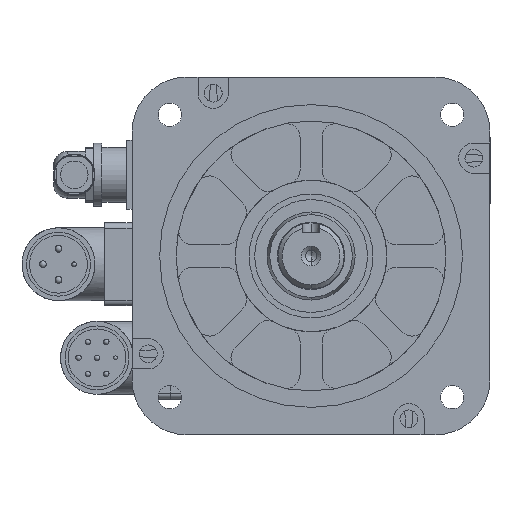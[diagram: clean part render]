
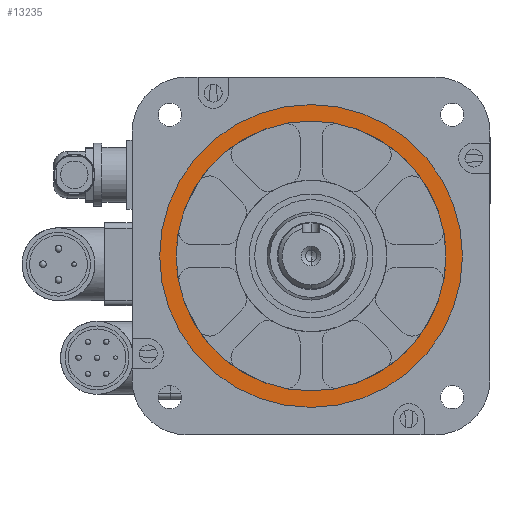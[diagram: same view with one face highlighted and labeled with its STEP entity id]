
A CAD part, left-side view. The second image highlights one B-rep face of the part: STEP entity #13235.
In plain terms, the highlighted planar face has unit normal (-1, 0, 0).
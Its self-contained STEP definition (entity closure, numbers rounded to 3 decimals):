
#143 = CARTESIAN_POINT ( 'NONE',  ( -6., 0., 0. ) ) ;
#449 = ORIENTED_EDGE ( 'NONE', *, *, #13008, .T. ) ;
#2937 = AXIS2_PLACEMENT_3D ( 'NONE', #32665, #12424, #36083 ) ;
#3541 = DIRECTION ( 'NONE',  ( 0., 0., 1. ) ) ;
#4160 = ORIENTED_EDGE ( 'NONE', *, *, #36298, .F. ) ;
#4733 = CARTESIAN_POINT ( 'NONE',  ( -6., 0., 0. ) ) ;
#4936 = CARTESIAN_POINT ( 'NONE',  ( -6., 0., 49. ) ) ;
#5955 = VERTEX_POINT ( 'NONE', #4936 ) ;
#7286 = AXIS2_PLACEMENT_3D ( 'NONE', #9006, #19218, #42876 ) ;
#7485 = EDGE_CURVE ( 'NONE', #28622, #12285, #10185, .T. ) ;
#8139 = DIRECTION ( 'NONE',  ( 0., 0., 1. ) ) ;
#9006 = CARTESIAN_POINT ( 'NONE',  ( -6., 0., 0. ) ) ;
#10185 = CIRCLE ( 'NONE', #37185, 55. ) ;
#10372 = EDGE_LOOP ( 'NONE', ( #31946, #449 ) ) ;
#12285 = VERTEX_POINT ( 'NONE', #23655 ) ;
#12424 = DIRECTION ( 'NONE',  ( -1., 0., 0. ) ) ;
#13008 = EDGE_CURVE ( 'NONE', #12285, #28622, #14003, .T. ) ;
#13235 = ADVANCED_FACE ( 'NONE', ( #23509, #15546 ), #39340, .T. ) ;
#14003 = CIRCLE ( 'NONE', #21719, 55. ) ;
#15546 = FACE_OUTER_BOUND ( 'NONE', #10372, .T. ) ;
#15780 = ORIENTED_EDGE ( 'NONE', *, *, #27117, .F. ) ;
#16119 = CARTESIAN_POINT ( 'NONE',  ( -6., 0., 0. ) ) ;
#19041 = EDGE_LOOP ( 'NONE', ( #15780, #4160 ) ) ;
#19218 = DIRECTION ( 'NONE',  ( -1., 0., 0. ) ) ;
#19401 = CIRCLE ( 'NONE', #22431, 49. ) ;
#19524 = DIRECTION ( 'NONE',  ( 0., 0., 1. ) ) ;
#21719 = AXIS2_PLACEMENT_3D ( 'NONE', #4733, #28385, #8139 ) ;
#22431 = AXIS2_PLACEMENT_3D ( 'NONE', #16119, #39826, #19524 ) ;
#23509 = FACE_BOUND ( 'NONE', #19041, .T. ) ;
#23655 = CARTESIAN_POINT ( 'NONE',  ( -6., 0., 55. ) ) ;
#23792 = DIRECTION ( 'NONE',  ( -1., 0., 0. ) ) ;
#27117 = EDGE_CURVE ( 'NONE', #5955, #29153, #19401, .T. ) ;
#28385 = DIRECTION ( 'NONE',  ( -1., 0., 0. ) ) ;
#28622 = VERTEX_POINT ( 'NONE', #43176 ) ;
#29153 = VERTEX_POINT ( 'NONE', #32323 ) ;
#31946 = ORIENTED_EDGE ( 'NONE', *, *, #7485, .T. ) ;
#32323 = CARTESIAN_POINT ( 'NONE',  ( -6., 0., -49. ) ) ;
#32665 = CARTESIAN_POINT ( 'NONE',  ( -6., 0., 0. ) ) ;
#36083 = DIRECTION ( 'NONE',  ( 0., 0., 1. ) ) ;
#36298 = EDGE_CURVE ( 'NONE', #29153, #5955, #36751, .T. ) ;
#36751 = CIRCLE ( 'NONE', #2937, 49. ) ;
#37185 = AXIS2_PLACEMENT_3D ( 'NONE', #143, #23792, #3541 ) ;
#39340 = PLANE ( 'NONE',  #7286 ) ;
#39826 = DIRECTION ( 'NONE',  ( -1., 0., 0. ) ) ;
#42876 = DIRECTION ( 'NONE',  ( 0., 0., 1. ) ) ;
#43176 = CARTESIAN_POINT ( 'NONE',  ( -6., 0., -55. ) ) ;
